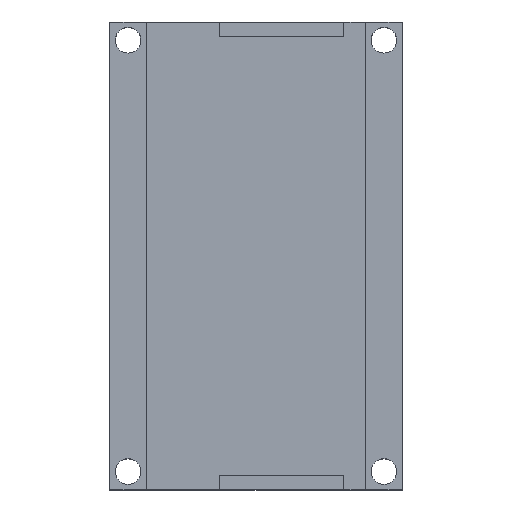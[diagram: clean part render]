
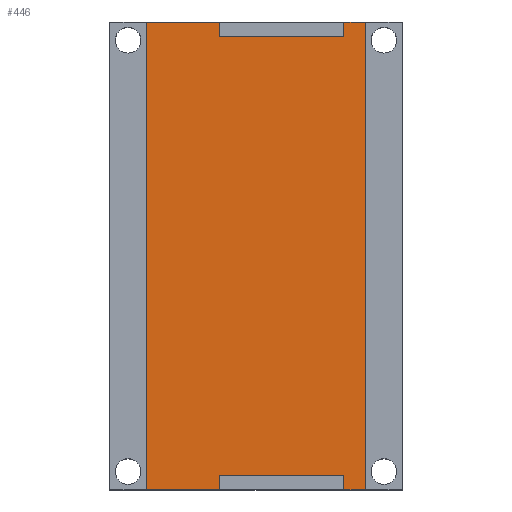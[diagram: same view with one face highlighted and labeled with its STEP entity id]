
A CAD part, top view. The second image highlights one B-rep face of the part: STEP entity #446.
In plain terms, the highlighted planar face has unit normal (0, 0, 1).
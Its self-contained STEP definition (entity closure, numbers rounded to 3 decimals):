
#36=PLANE('',#490);
#58=FACE_OUTER_BOUND('',#84,.T.);
#84=EDGE_LOOP('',(#393,#394,#395,#396,#397,#398,#399,#400,#401,#402,#403,
#404));
#98=LINE('',#639,#150);
#106=LINE('',#654,#158);
#107=LINE('',#656,#159);
#108=LINE('',#659,#160);
#109=LINE('',#661,#161);
#123=LINE('',#689,#175);
#125=LINE('',#694,#177);
#127=LINE('',#698,#179);
#135=LINE('',#713,#187);
#136=LINE('',#715,#188);
#141=LINE('',#724,#193);
#142=LINE('',#725,#194);
#150=VECTOR('',#528,10.);
#158=VECTOR('',#540,10.);
#159=VECTOR('',#543,10.);
#160=VECTOR('',#546,10.);
#161=VECTOR('',#547,10.);
#175=VECTOR('',#565,10.);
#177=VECTOR('',#569,10.);
#179=VECTOR('',#573,10.);
#187=VECTOR('',#581,10.);
#188=VECTOR('',#584,10.);
#193=VECTOR('',#597,10.);
#194=VECTOR('',#598,10.);
#213=VERTEX_POINT('',#635);
#215=VERTEX_POINT('',#638);
#219=VERTEX_POINT('',#650);
#220=VERTEX_POINT('',#652);
#221=VERTEX_POINT('',#658);
#222=VERTEX_POINT('',#660);
#233=VERTEX_POINT('',#685);
#234=VERTEX_POINT('',#687);
#235=VERTEX_POINT('',#691);
#236=VERTEX_POINT('',#693);
#237=VERTEX_POINT('',#697);
#244=VERTEX_POINT('',#711);
#258=EDGE_CURVE('',#213,#215,#98,.T.);
#266=EDGE_CURVE('',#219,#220,#106,.T.);
#267=EDGE_CURVE('',#213,#219,#107,.T.);
#268=EDGE_CURVE('',#221,#220,#108,.T.);
#269=EDGE_CURVE('',#215,#222,#109,.T.);
#283=EDGE_CURVE('',#233,#234,#123,.T.);
#285=EDGE_CURVE('',#235,#236,#125,.T.);
#287=EDGE_CURVE('',#236,#237,#127,.T.);
#295=EDGE_CURVE('',#244,#234,#135,.T.);
#296=EDGE_CURVE('',#235,#233,#136,.T.);
#301=EDGE_CURVE('',#244,#222,#141,.T.);
#302=EDGE_CURVE('',#237,#221,#142,.T.);
#393=ORIENTED_EDGE('',*,*,#296,.T.);
#394=ORIENTED_EDGE('',*,*,#283,.T.);
#395=ORIENTED_EDGE('',*,*,#295,.F.);
#396=ORIENTED_EDGE('',*,*,#301,.T.);
#397=ORIENTED_EDGE('',*,*,#269,.F.);
#398=ORIENTED_EDGE('',*,*,#258,.F.);
#399=ORIENTED_EDGE('',*,*,#267,.T.);
#400=ORIENTED_EDGE('',*,*,#266,.T.);
#401=ORIENTED_EDGE('',*,*,#268,.F.);
#402=ORIENTED_EDGE('',*,*,#302,.F.);
#403=ORIENTED_EDGE('',*,*,#287,.F.);
#404=ORIENTED_EDGE('',*,*,#285,.F.);
#446=ADVANCED_FACE('',(#58),#36,.F.);
#490=AXIS2_PLACEMENT_3D('',#723,#595,#596);
#528=DIRECTION('',(0.,1.,0.));
#540=DIRECTION('',(0.,1.,0.));
#543=DIRECTION('',(-1.,0.,0.));
#546=DIRECTION('',(1.,0.,0.));
#547=DIRECTION('',(1.,0.,0.));
#565=DIRECTION('',(0.,-1.,0.));
#569=DIRECTION('',(0.,-1.,0.));
#573=DIRECTION('',(-1.,0.,0.));
#581=DIRECTION('',(-1.,0.,0.));
#584=DIRECTION('',(1.,0.,0.));
#595=DIRECTION('center_axis',(0.,0.,-1.));
#596=DIRECTION('ref_axis',(-1.,0.,0.));
#597=DIRECTION('',(0.,1.,0.));
#598=DIRECTION('',(0.,1.,0.));
#635=CARTESIAN_POINT('',(12.,60.,0.));
#638=CARTESIAN_POINT('',(12.,62.,0.));
#639=CARTESIAN_POINT('',(12.,60.,0.));
#650=CARTESIAN_POINT('',(-5.,60.,0.));
#652=CARTESIAN_POINT('',(-5.,62.,0.));
#654=CARTESIAN_POINT('',(-5.,60.,0.));
#656=CARTESIAN_POINT('',(-15.,60.,0.));
#658=CARTESIAN_POINT('',(-15.,62.,0.));
#659=CARTESIAN_POINT('',(-7.5,62.,0.));
#660=CARTESIAN_POINT('',(15.,62.,0.));
#661=CARTESIAN_POINT('',(6.,62.,0.));
#685=CARTESIAN_POINT('',(12.,0.,0.));
#687=CARTESIAN_POINT('',(12.,-2.,0.));
#689=CARTESIAN_POINT('',(12.,0.,0.));
#691=CARTESIAN_POINT('',(-5.,0.,0.));
#693=CARTESIAN_POINT('',(-5.,-2.,0.));
#694=CARTESIAN_POINT('',(-5.,0.,0.));
#697=CARTESIAN_POINT('',(-15.,-2.,0.));
#698=CARTESIAN_POINT('',(15.,-2.,0.));
#711=CARTESIAN_POINT('',(15.,-2.,0.));
#713=CARTESIAN_POINT('',(15.,-2.,0.));
#715=CARTESIAN_POINT('',(-15.,0.,0.));
#723=CARTESIAN_POINT('Origin',(15.,0.,0.));
#724=CARTESIAN_POINT('',(15.,0.,0.));
#725=CARTESIAN_POINT('',(-15.,0.,0.));
